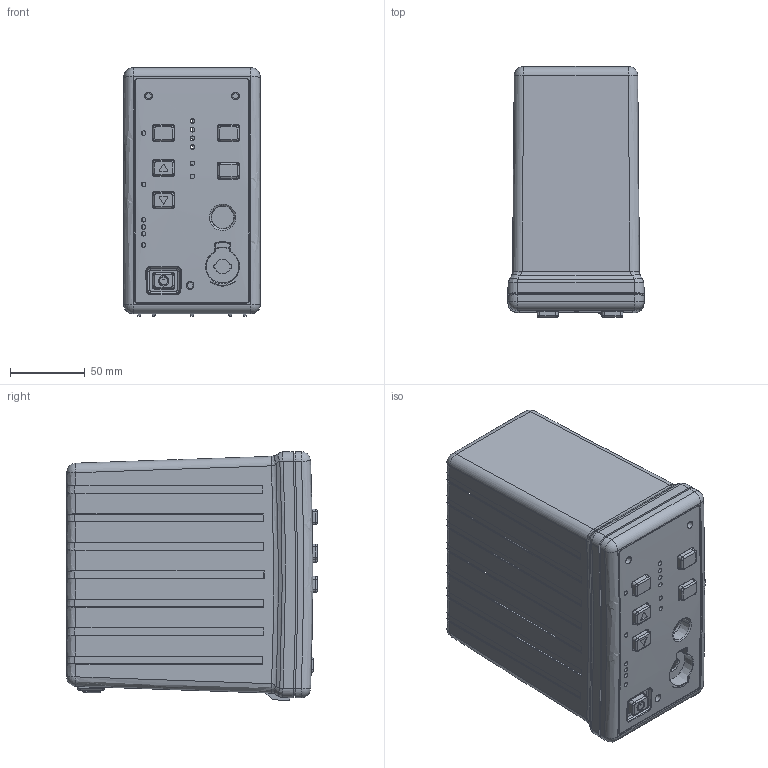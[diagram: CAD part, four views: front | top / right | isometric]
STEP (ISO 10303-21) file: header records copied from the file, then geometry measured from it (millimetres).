
FILE_DESCRIPTION((''),'2;1');
FILE_NAME('GREEN_ACRES_ASM','2019-08-01T',('tchin1'),(''),'CREO PARAMETRIC BY PTC INC, 2016050','CREO PARAMETRIC BY PTC INC, 2016050','');
FILE_SCHEMA(('CONFIG_CONTROL_DESIGN'));
Length unit declared in the file: inch
Products named in the file (9): PCB_FRONTPANEL_GA_AF0; PANEL_REAR_GA_AF0; LABEL_BACK_GA_AF0; HOUSING-MAIN_GA_AF0; BEZEL-FRONT_GA_AF0; SWITCHMAT_GA_AF0; 348152500_AF0; 348152500; GREEN_ACRES_ASM
Assembly tree (8 placements, depth 2):
  GREEN_ACRES_ASM
    PCB_FRONTPANEL_GA_AF0
    PANEL_REAR_GA_AF0
    LABEL_BACK_GA_AF0
    HOUSING-MAIN_GA_AF0
    BEZEL-FRONT_GA_AF0
    SWITCHMAT_GA_AF0
    348152500_AF0
    348152500
Bounding box: 91.44 x 168.1 x 166.77 mm (x, y, z)
Volume: 280443.1 mm3; surface area: 288249 mm2
Topology: 8 solids, 8 shells, 3320 faces, 8370 edges, 5124 vertices
Faces by surface type: plane 1425, cylinder 694, bspline 561, cone 282, torus 169, extrusion 131, sphere 58
Entity records: 139725 total; most frequent: CARTESIAN_POINT 46485, ORIENTED_EDGE 16736, DIRECTION 13652, EDGE_CURVE 8368, PRESENTATION_STYLE_ASSIGNMENT 5940, STYLED_ITEM 5940, CURVE_STYLE 5934, VERTEX_POINT 5123
